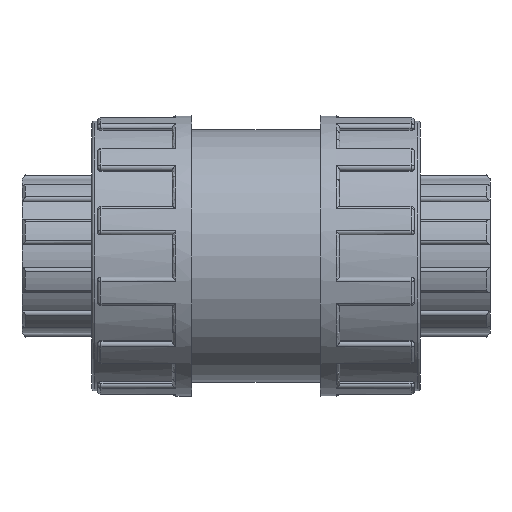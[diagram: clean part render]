
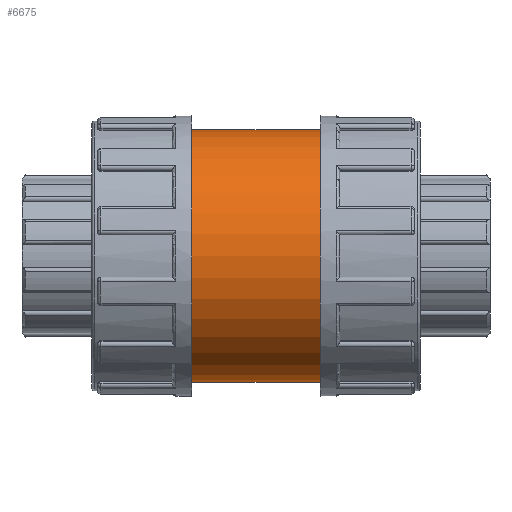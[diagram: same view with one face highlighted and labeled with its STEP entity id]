
A CAD part, front view. The second image highlights one B-rep face of the part: STEP entity #6675.
In plain terms, the highlighted cylindrical face has radius 20.25 mm (diameter 40.5 mm), a full revolution.
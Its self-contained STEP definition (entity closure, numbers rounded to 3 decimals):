
#185=FACE_BOUND('',#1099,.T.);
#186=FACE_BOUND('',#1100,.T.);
#670=FACE_OUTER_BOUND('',#1098,.T.);
#1098=EDGE_LOOP('',(#6073));
#1099=EDGE_LOOP('',(#6074));
#1100=EDGE_LOOP('',(#6075));
#1149=B_SPLINE_CURVE_WITH_KNOTS('',3,(#10735,#10736,#10737,#10738,#10739,
#10740,#10741,#10742,#10743,#10744,#10745,#10746,#10747,#10748,#10749,#10750,
#10751,#10752,#10753,#10754,#10755,#10756,#10757,#10758,#10759,#10760,#10761,
#10762,#10763,#10764,#10765,#10766,#10767,#10768),.UNSPECIFIED.,.T.,.F.,
(4,2,2,2,2,2,2,2,2,2,2,2,2,2,2,2,4),(0.,0.256,0.513,
0.769,1.026,1.282,1.538,1.795,
2.051,2.308,2.564,2.82,3.077,
3.333,3.589,3.846,4.102),
 .UNSPECIFIED.);
#2472=CIRCLE('',#7578,20.25);
#2473=CIRCLE('',#7580,20.25);
#2638=VERTEX_POINT('',#10734);
#3083=VERTEX_POINT('',#13353);
#3084=VERTEX_POINT('',#13356);
#3349=EDGE_CURVE('',#2638,#2638,#1149,.T.);
#4082=EDGE_CURVE('',#3083,#3083,#2472,.T.);
#4083=EDGE_CURVE('',#3084,#3084,#2473,.T.);
#6073=ORIENTED_EDGE('',*,*,#4082,.T.);
#6074=ORIENTED_EDGE('',*,*,#3349,.T.);
#6075=ORIENTED_EDGE('',*,*,#4083,.F.);
#6267=CYLINDRICAL_SURFACE('',#7579,20.25);
#6675=ADVANCED_FACE('',(#670,#185,#186),#6267,.T.);
#7578=AXIS2_PLACEMENT_3D('',#13354,#9749,#9750);
#7579=AXIS2_PLACEMENT_3D('',#13355,#9751,#9752);
#7580=AXIS2_PLACEMENT_3D('',#13357,#9753,#9754);
#9749=DIRECTION('center_axis',(1.,0.,0.));
#9750=DIRECTION('ref_axis',(0.,0.,-1.));
#9751=DIRECTION('center_axis',(1.,0.,0.));
#9752=DIRECTION('ref_axis',(0.,1.,0.));
#9753=DIRECTION('center_axis',(1.,0.,0.));
#9754=DIRECTION('ref_axis',(0.,0.,-1.));
#10734=CARTESIAN_POINT('',(0.,19.092,-6.75));
#10735=CARTESIAN_POINT('Ctrl Pts',(0.,19.092,
-6.75));
#10736=CARTESIAN_POINT('Ctrl Pts',(0.855,19.092,-6.75));
#10737=CARTESIAN_POINT('Ctrl Pts',(1.762,19.155,-6.578));
#10738=CARTESIAN_POINT('Ctrl Pts',(3.423,19.379,-5.887));
#10739=CARTESIAN_POINT('Ctrl Pts',(4.177,19.535,-5.369));
#10740=CARTESIAN_POINT('Ctrl Pts',(5.368,19.824,-4.177));
#10741=CARTESIAN_POINT('Ctrl Pts',(5.887,19.976,-3.423));
#10742=CARTESIAN_POINT('Ctrl Pts',(6.578,20.191,-1.762));
#10743=CARTESIAN_POINT('Ctrl Pts',(6.75,20.25,-0.854));
#10744=CARTESIAN_POINT('Ctrl Pts',(6.75,20.25,0.854));
#10745=CARTESIAN_POINT('Ctrl Pts',(6.578,20.191,1.762));
#10746=CARTESIAN_POINT('Ctrl Pts',(5.887,19.976,3.423));
#10747=CARTESIAN_POINT('Ctrl Pts',(5.368,19.824,4.177));
#10748=CARTESIAN_POINT('Ctrl Pts',(4.177,19.535,5.369));
#10749=CARTESIAN_POINT('Ctrl Pts',(3.423,19.379,5.887));
#10750=CARTESIAN_POINT('Ctrl Pts',(1.762,19.155,6.578));
#10751=CARTESIAN_POINT('Ctrl Pts',(0.855,19.092,6.75));
#10752=CARTESIAN_POINT('Ctrl Pts',(-0.855,19.092,
6.75));
#10753=CARTESIAN_POINT('Ctrl Pts',(-1.762,19.155,6.578));
#10754=CARTESIAN_POINT('Ctrl Pts',(-3.423,19.379,5.887));
#10755=CARTESIAN_POINT('Ctrl Pts',(-4.177,19.535,5.369));
#10756=CARTESIAN_POINT('Ctrl Pts',(-5.368,19.824,4.177));
#10757=CARTESIAN_POINT('Ctrl Pts',(-5.887,19.976,3.423));
#10758=CARTESIAN_POINT('Ctrl Pts',(-6.578,20.191,1.762));
#10759=CARTESIAN_POINT('Ctrl Pts',(-6.75,20.25,0.854));
#10760=CARTESIAN_POINT('Ctrl Pts',(-6.75,20.25,-0.854));
#10761=CARTESIAN_POINT('Ctrl Pts',(-6.578,20.191,-1.762));
#10762=CARTESIAN_POINT('Ctrl Pts',(-5.887,19.976,-3.423));
#10763=CARTESIAN_POINT('Ctrl Pts',(-5.368,19.824,-4.177));
#10764=CARTESIAN_POINT('Ctrl Pts',(-4.177,19.535,-5.369));
#10765=CARTESIAN_POINT('Ctrl Pts',(-3.423,19.379,-5.887));
#10766=CARTESIAN_POINT('Ctrl Pts',(-1.762,19.155,-6.578));
#10767=CARTESIAN_POINT('Ctrl Pts',(-0.855,19.092,
-6.75));
#10768=CARTESIAN_POINT('Ctrl Pts',(0.,19.092,
-6.75));
#13353=CARTESIAN_POINT('',(-10.3,20.25,0.));
#13354=CARTESIAN_POINT('Origin',(-10.3,0.,0.));
#13355=CARTESIAN_POINT('Origin',(0.,0.,0.));
#13356=CARTESIAN_POINT('',(10.3,20.25,0.));
#13357=CARTESIAN_POINT('Origin',(10.3,0.,0.));
